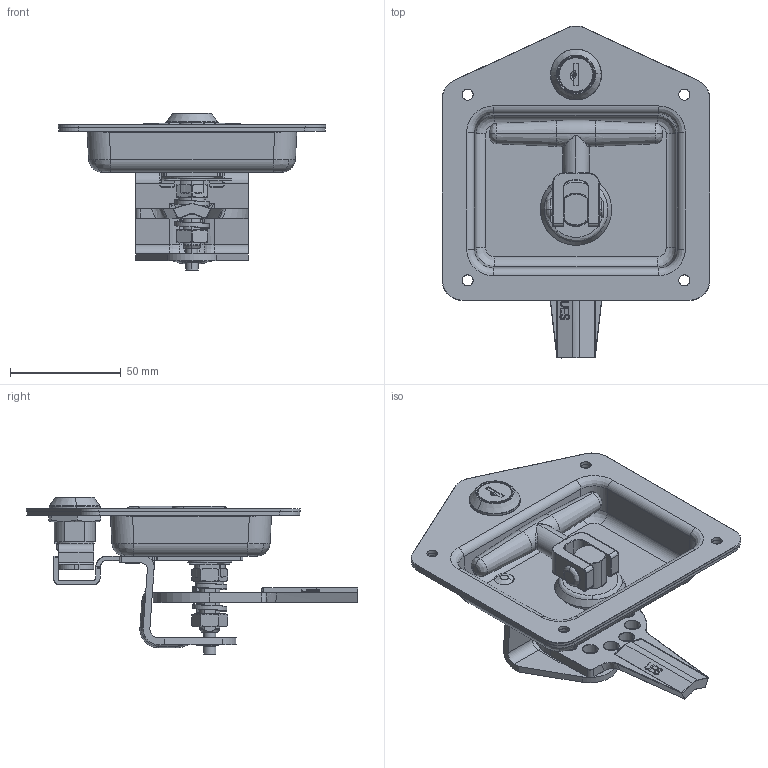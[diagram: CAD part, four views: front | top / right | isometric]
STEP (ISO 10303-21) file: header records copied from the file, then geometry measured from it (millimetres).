
FILE_DESCRIPTION (( 'STEP AP203' ), '1' );
FILE_NAME ('91247.STEP', '2017-12-07T01:09:24', ( '' ), ( '' ), 'SwSTEP 2.0', 'SolidWorks 2017', '' );
FILE_SCHEMA (( 'CONFIG_CONTROL_DESIGN' ));
Length unit declared in the file: millimetre
Products named in the file (25): 91247-MXRivet_1; 91247-MXRivet for Lock 91248; 91247; 91247-MXGasket; 91247-MXHandle Assembly Nut_1; 91247-MXE-Clip; 91247-MXNut for lock_1; 91247-MXHandle Pin_91248; 91247-MX Bolt; 91247-MXHandle_1; 91247-MXLocking Plate 91248; 91247-MXSlide plate_1; 91247-MXLatch Plate 91248; 91247-MXRear Bracket 1 91248; 91247-MXRubber compression ring_1; 91247-MXLock Cam 91248; 91247-MXlock ring_1; 91247-MXLock Cylinder_1; 91247-MXRabbit Washer_1; 91247-MXBody; 91247-MX20mm Washer_1; 91247-MXSpring Washer_1; 91247-MXRubber seal cover_1; 91247-MXLock stopping plate_1; 91247-MXlock barrel_1
Assembly tree (27 placements, depth 2):
  91247
    91247-MXBody
    91247-MXSlide plate_1
    91247-MXRubber compression ring_1
    91247-MXRubber seal cover_1
    91247-MX20mm Washer_1
    91247-MXRabbit Washer_1
    91247-MXHandle Assembly Nut_1  x2
    91247-MXSpring Washer_1  x2
    91247-MXRivet_1  x2
    91247-MX Bolt
    91247-MXHandle Pin_91248
    91247-MXLock Cylinder_1
    91247-MXlock barrel_1
    91247-MXLock stopping plate_1
    91247-MXNut for lock_1
    91247-MXlock ring_1
    91247-MXLocking Plate 91248
    91247-MXLock Cam 91248
    91247-MXRear Bracket 1 91248
    91247-MXE-Clip
    91247-MXLatch Plate 91248
    91247-MXRivet for Lock 91248
    91247-MXGasket
    91247-MXHandle_1
Bounding box: 121 x 150.05 x 71 mm (x, y, z)
Volume: 92182.9 mm3; surface area: 91528.4 mm2
Topology: 27 solids, 27 shells, 1610 faces, 3697 edges, 2085 vertices
Faces by surface type: bspline 710, cylinder 587, plane 249, torus 40, cone 22, sphere 2
Entity records: 61901 total; most frequent: CARTESIAN_POINT 28679, ORIENTED_EDGE 6794, DIRECTION 6062, EDGE_CURVE 3397, AXIS2_PLACEMENT_3D 2509, VERTEX_POINT 1965, CIRCLE 1619, EDGE_LOOP 1610
